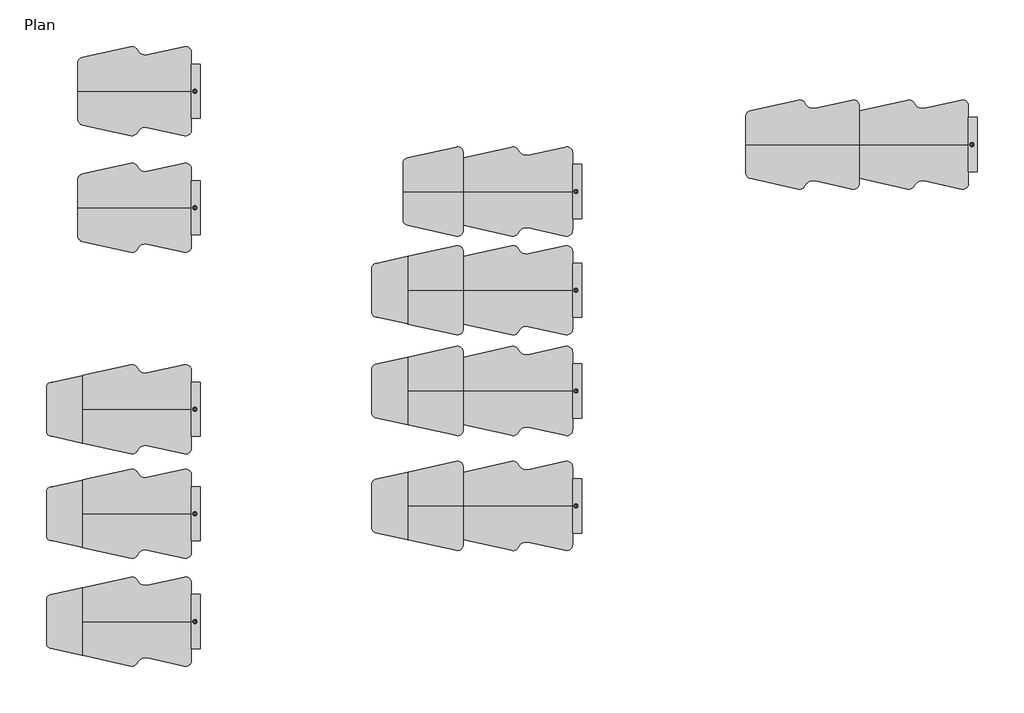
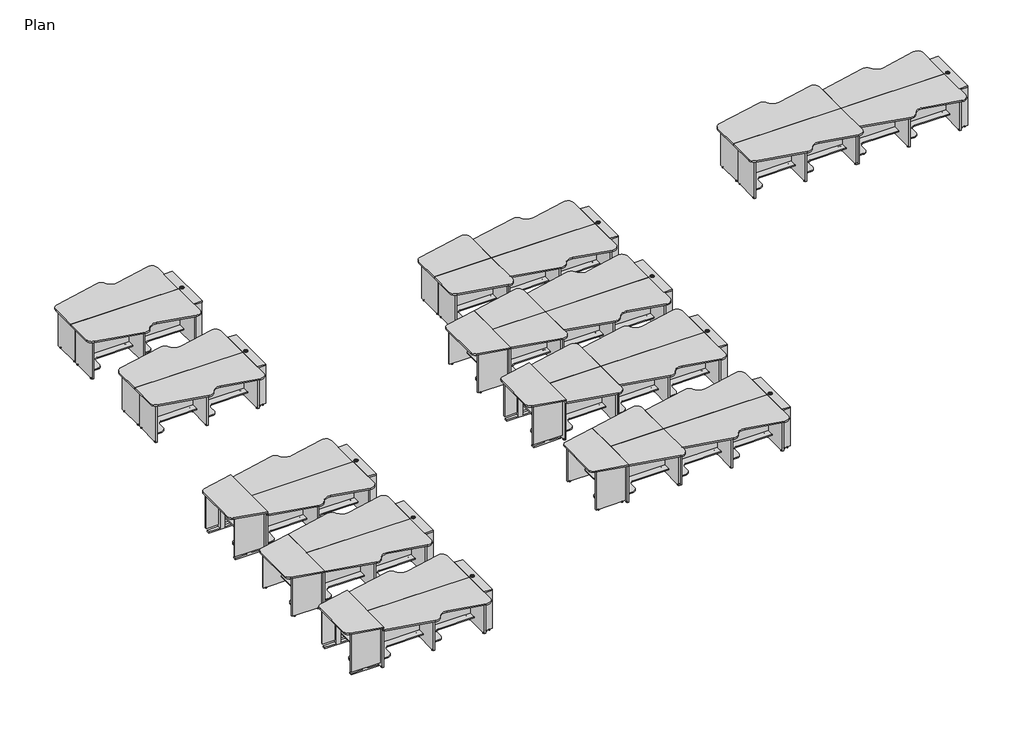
# One storey, incomplete: 10 furniture elements.
"""IFC4 building model written with IfcOpenShell, lengths in millimetres."""

from ifc_helpers import new_model, si_unit, origin, place, context, project, spatial, transform, mapped, element, save
from components import furniture_4_person_910c4855, furniture_4_person_39970b63, furniture_5_person_ada_cc60ec20, furniture_5_person_ada_08185c7c, furniture_5_person_perforated_dfc2273a, furniture_5_person_perforated_196aff89, furniture_5_person_perforated_9bd49d1d, furniture_6_person_perforated_d60ef6a5, furniture_6_person_perforated_8f2a57f9, furniture_6_person_perforated_24b4f6db, furniture_7_person_f9d7e863, furniture_7_person_a24fa515, furniture_7_person_7b940777, furniture_7_person_16e840e4, furniture_7_person_ada_e78bc548, furniture_8_person_18e800c8, furniture_8_person_16eeabb3, furniture_8_person_6312feb5, furniture_8_person_673e4dde

model = new_model("IFC4")

# Units and contexts
model_context = context("Model", 3, world=origin())
ifc_project = project(units=[si_unit("LENGTHUNIT", "METRE", prefix="MILLI")], contexts=[model_context])

# Site, building, storey
site = spatial("IfcSite", under=ifc_project)
building = spatial("IfcBuilding", under=site)
storey = spatial("IfcBuildingStorey", under=building, Name="Plan", Elevation=0.0)

# Furniture
placement = place(None, origin())
furniture_4_person_shape = furniture_4_person_910c4855(model_context)
furniture_4_person_2_shape = furniture_4_person_39970b63(model_context)
element("IfcFurniture", 1, ObjectType="Nova Solutions - Collaboration Table - Keystone_4-5 person : 4 person", at=placement, inside=storey, context=model_context, shape_type="MappedRepresentation", body=[
    mapped(furniture_4_person_shape, transform((10065.4570611, -803.414617, 0.0), x_axis=(1.0, 0.0, 0.0), y_axis=(0.0, 1.0, 0.0), z_axis=(0.0, 0.0, 1.0))),
    mapped(furniture_4_person_2_shape, transform((10065.4570611, -803.414617, 0.0), x_axis=(1.0, 0.0, 0.0), y_axis=(0.0, 1.0, 0.0), z_axis=(0.0, 0.0, 1.0))),
])
element("IfcFurniture", 2, ObjectType="Nova Solutions - Collaboration Table - Keystone_4-5 person : 4 person-Perforated", at=placement, inside=storey, context=model_context, shape_type="MappedRepresentation", body=[
    mapped(furniture_4_person_shape, transform((10065.4570611, -2782.8071749, 0.0), x_axis=(1.0, 0.0, 0.0), y_axis=(0.0, 1.0, 0.0), z_axis=(0.0, 0.0, 1.0))),
    mapped(furniture_4_person_2_shape, transform((10065.4570611, -2782.8071749, 0.0), x_axis=(1.0, 0.0, 0.0), y_axis=(0.0, 1.0, 0.0), z_axis=(0.0, 0.0, 1.0))),
])
furniture_5_person_ada_shape = furniture_5_person_ada_cc60ec20(model_context)
furniture_5_person_ada_2_shape = furniture_5_person_ada_08185c7c(model_context)
element("IfcFurniture", 3, ObjectType="Nova Solutions - Collaboration Table - Keystone_4-5 person : 5 person - ADA", at=placement, inside=storey, context=model_context, shape_type="MappedRepresentation", body=[
    mapped(furniture_5_person_ada_shape, transform((10065.4570611, -6204.7208288, 0.0), x_axis=(1.0, 0.0, 0.0), y_axis=(0.0, 1.0, 0.0), z_axis=(0.0, 0.0, 1.0))),
    mapped(furniture_5_person_ada_2_shape, transform((10065.4570611, -6204.7208288, 0.0), x_axis=(1.0, 0.0, 0.0), y_axis=(0.0, 1.0, 0.0), z_axis=(0.0, 0.0, 1.0))),
])
furniture_5_person_perforated_shape = furniture_5_person_perforated_dfc2273a(model_context)
furniture_5_person_perforated_2_shape = furniture_5_person_perforated_196aff89(model_context)
furniture_5_person_perforated_3_shape = furniture_5_person_perforated_9bd49d1d(model_context)
element("IfcFurniture", 4, ObjectType="Nova Solutions - Collaboration Table - Keystone_4-5 person : 5 person-Perforated", at=placement, inside=storey, context=model_context, shape_type="MappedRepresentation", body=[
    mapped(furniture_5_person_perforated_shape, transform((10065.4570611, -7978.0202122, 0.0), x_axis=(1.0, 0.0, 0.0), y_axis=(0.0, 1.0, 0.0), z_axis=(0.0, 0.0, 1.0))),
    mapped(furniture_5_person_perforated_2_shape, transform((10065.4570611, -7978.0202122, 0.0), x_axis=(1.0, 0.0, 0.0), y_axis=(0.0, 1.0, 0.0), z_axis=(0.0, 0.0, 1.0))),
    mapped(furniture_5_person_perforated_3_shape, transform((10065.4570611, -7978.0202122, 0.0), x_axis=(1.0, 0.0, 0.0), y_axis=(0.0, 1.0, 0.0), z_axis=(0.0, 0.0, 1.0))),
])
element("IfcFurniture", 5, ObjectType="Nova Solutions - Collaboration Table - Keystone_4-5 person : 5 person-Perforated - ADA", at=placement, inside=storey, context=model_context, shape_type="MappedRepresentation", body=[
    mapped(furniture_5_person_ada_shape, transform((10065.4570611, -9809.0312576, 0.0), x_axis=(1.0, 0.0, 0.0), y_axis=(0.0, 1.0, 0.0), z_axis=(0.0, 0.0, 1.0))),
    mapped(furniture_5_person_ada_2_shape, transform((10065.4570611, -9809.0312576, 0.0), x_axis=(1.0, 0.0, 0.0), y_axis=(0.0, 1.0, 0.0), z_axis=(0.0, 0.0, 1.0))),
])
furniture_6_person_perforated_shape = furniture_6_person_perforated_d60ef6a5(model_context)
furniture_6_person_perforated_2_shape = furniture_6_person_perforated_8f2a57f9(model_context)
furniture_6_person_perforated_3_shape = furniture_6_person_perforated_24b4f6db(model_context)
element("IfcFurniture", 6, ObjectType="Nova Solutions - Collaboration Table - Keystone_6-7 person : 6 person-Perforated", at=placement, inside=storey, context=model_context, shape_type="MappedRepresentation", body=[
    mapped(furniture_6_person_perforated_shape, transform((16077.2034828, -2506.8284859, 0.0), x_axis=(1.0, 0.0, 0.0), y_axis=(0.0, 1.0, 0.0), z_axis=(0.0, 0.0, 1.0))),
    mapped(furniture_6_person_perforated_2_shape, transform((16077.2034828, -2506.8284859, 0.0), x_axis=(1.0, 0.0, 0.0), y_axis=(0.0, 1.0, 0.0), z_axis=(0.0, 0.0, 1.0))),
    mapped(furniture_6_person_perforated_3_shape, transform((16077.2034828, -2506.8284859, 0.0), x_axis=(1.0, 0.0, 0.0), y_axis=(0.0, 1.0, 0.0), z_axis=(0.0, 0.0, 1.0))),
])
furniture_7_person_shape = furniture_7_person_f9d7e863(model_context)
furniture_7_person_2_shape = furniture_7_person_a24fa515(model_context)
furniture_7_person_3_shape = furniture_7_person_7b940777(model_context)
furniture_7_person_4_shape = furniture_7_person_16e840e4(model_context)
element("IfcFurniture", 7, ObjectType="Nova Solutions - Collaboration Table - Keystone_6-7 person : 7 person", at=placement, inside=storey, context=model_context, shape_type="MappedRepresentation", body=[
    mapped(furniture_7_person_shape, transform((16077.2034828, -4182.9148597, 0.0), x_axis=(1.0, 0.0, 0.0), y_axis=(0.0, 1.0, 0.0), z_axis=(0.0, 0.0, 1.0))),
    mapped(furniture_7_person_2_shape, transform((16077.2034828, -4182.9148597, 0.0), x_axis=(1.0, 0.0, 0.0), y_axis=(0.0, 1.0, 0.0), z_axis=(0.0, 0.0, 1.0))),
    mapped(furniture_7_person_3_shape, transform((16077.2034828, -4182.9148597, 0.0), x_axis=(1.0, 0.0, 0.0), y_axis=(0.0, 1.0, 0.0), z_axis=(0.0, 0.0, 1.0))),
    mapped(furniture_7_person_4_shape, transform((16077.2034828, -4182.9148597, 0.0), x_axis=(1.0, 0.0, 0.0), y_axis=(0.0, 1.0, 0.0), z_axis=(0.0, 0.0, 1.0))),
])
furniture_7_person_ada_shape = furniture_7_person_ada_e78bc548(model_context)
element("IfcFurniture", 8, ObjectType="Nova Solutions - Collaboration Table - Keystone_6-7 person : 7 person - ADA", at=placement, inside=storey, context=model_context, shape_type="MappedRepresentation", body=[
    mapped(furniture_7_person_ada_shape, transform((16077.2034828, -5893.798244, 0.0), x_axis=(1.0, 0.0, 0.0), y_axis=(0.0, 1.0, 0.0), z_axis=(0.0, 0.0, 1.0))),
    mapped(furniture_6_person_perforated_2_shape, transform((16077.2034828, -5893.798244, 0.0), x_axis=(1.0, 0.0, 0.0), y_axis=(0.0, 1.0, 0.0), z_axis=(0.0, 0.0, 1.0))),
    mapped(furniture_6_person_perforated_3_shape, transform((16077.2034828, -5893.798244, 0.0), x_axis=(1.0, 0.0, 0.0), y_axis=(0.0, 1.0, 0.0), z_axis=(0.0, 0.0, 1.0))),
])
element("IfcFurniture", 9, ObjectType="Nova Solutions - Collaboration Table - Keystone_6-7 person : 7 person-Perforated", at=placement, inside=storey, context=model_context, shape_type="MappedRepresentation", body=[
    mapped(furniture_7_person_shape, transform((16077.2034828, -7845.3913154, 0.0), x_axis=(1.0, 0.0, 0.0), y_axis=(0.0, 1.0, 0.0), z_axis=(0.0, 0.0, 1.0))),
    mapped(furniture_7_person_2_shape, transform((16077.2034828, -7845.3913154, 0.0), x_axis=(1.0, 0.0, 0.0), y_axis=(0.0, 1.0, 0.0), z_axis=(0.0, 0.0, 1.0))),
    mapped(furniture_7_person_3_shape, transform((16077.2034828, -7845.3913154, 0.0), x_axis=(1.0, 0.0, 0.0), y_axis=(0.0, 1.0, 0.0), z_axis=(0.0, 0.0, 1.0))),
    mapped(furniture_7_person_4_shape, transform((16077.2034828, -7845.3913154, 0.0), x_axis=(1.0, 0.0, 0.0), y_axis=(0.0, 1.0, 0.0), z_axis=(0.0, 0.0, 1.0))),
])
furniture_8_person_shape = furniture_8_person_18e800c8(model_context)
furniture_8_person_2_shape = furniture_8_person_16eeabb3(model_context)
furniture_8_person_3_shape = furniture_8_person_6312feb5(model_context)
furniture_8_person_4_shape = furniture_8_person_673e4dde(model_context)
element("IfcFurniture", 10, ObjectType="Nova Solutions - Collaboration Table - Keystone_8-11 person : 8 person", at=placement, inside=storey, context=model_context, shape_type="MappedRepresentation", body=[
    mapped(furniture_8_person_shape, transform((21857.9397708, -1709.7737968, 0.0), x_axis=(1.0, 0.0, 0.0), y_axis=(0.0, 1.0, 0.0), z_axis=(0.0, 0.0, 1.0))),
    mapped(furniture_8_person_2_shape, transform((21857.9397708, -1709.7737968, 0.0), x_axis=(1.0, 0.0, 0.0), y_axis=(0.0, 1.0, 0.0), z_axis=(0.0, 0.0, 1.0))),
    mapped(furniture_8_person_3_shape, transform((21857.9397708, -1709.7737968, 0.0), x_axis=(1.0, 0.0, 0.0), y_axis=(0.0, 1.0, 0.0), z_axis=(0.0, 0.0, 1.0))),
    mapped(furniture_8_person_4_shape, transform((21857.9397708, -1709.7737968, 0.0), x_axis=(1.0, 0.0, 0.0), y_axis=(0.0, 1.0, 0.0), z_axis=(0.0, 0.0, 1.0))),
])

save(model, "model.ifc")
